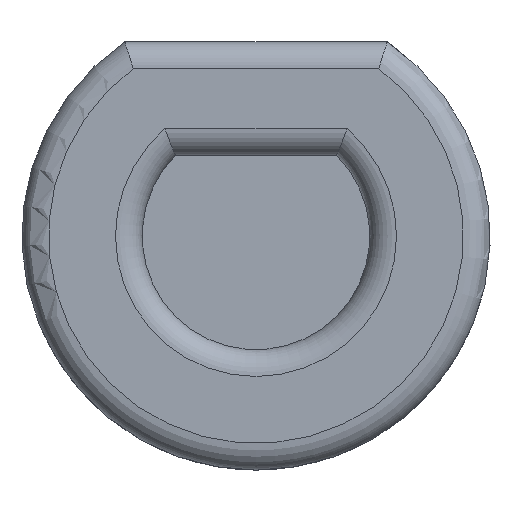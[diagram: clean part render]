
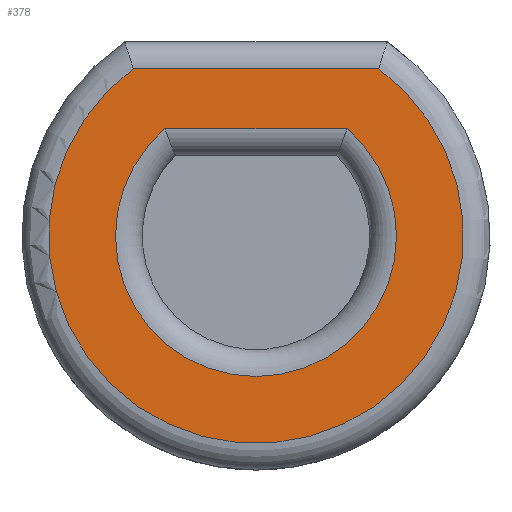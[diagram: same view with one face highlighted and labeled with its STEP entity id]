
A CAD part, front view. The second image highlights one B-rep face of the part: STEP entity #378.
In plain terms, the highlighted planar face has unit normal (0, -1, 0).
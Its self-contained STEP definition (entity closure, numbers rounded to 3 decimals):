
#71 = TOROIDAL_SURFACE('',#72,3.1,0.4);
#72 = AXIS2_PLACEMENT_3D('',#73,#74,#75);
#73 = CARTESIAN_POINT('',(0.,5.67,0.));
#74 = DIRECTION('',(0.,-1.,0.));
#75 = DIRECTION('',(0.56,0.,0.829));
#169 = CYLINDRICAL_SURFACE('',#170,0.4);
#170 = AXIS2_PLACEMENT_3D('',#171,#172,#173);
#171 = CARTESIAN_POINT('',(1.96,5.67,2.5));
#172 = DIRECTION('',(-1.,0.,0.));
#173 = DIRECTION('',(0.,0.,1.));
#185 = VERTEX_POINT('',#186);
#186 = CARTESIAN_POINT('',(1.833,5.27,2.5));
#236 = VERTEX_POINT('',#237);
#237 = CARTESIAN_POINT('',(-1.833,5.27,2.5));
#285 = EDGE_CURVE('',#185,#236,#286,.T.);
#286 = SURFACE_CURVE('',#287,(#292,#299),.PCURVE_S1.);
#287 = CIRCLE('',#288,3.1);
#288 = AXIS2_PLACEMENT_3D('',#289,#290,#291);
#289 = CARTESIAN_POINT('',(0.,5.27,0.));
#290 = DIRECTION('',(0.,1.,0.));
#291 = DIRECTION('',(0.56,0.,0.829));
#292 = PCURVE('',#71,#293);
#293 = DEFINITIONAL_REPRESENTATION('',(#294),#298);
#294 = LINE('',#295,#296);
#295 = CARTESIAN_POINT('',(-0.,1.571));
#296 = VECTOR('',#297,1.);
#297 = DIRECTION('',(-1.,0.));
#298 = ( GEOMETRIC_REPRESENTATION_CONTEXT(2) 
PARAMETRIC_REPRESENTATION_CONTEXT() REPRESENTATION_CONTEXT('2D SPACE',''
  ) );
#299 = PCURVE('',#300,#305);
#300 = PLANE('',#301);
#301 = AXIS2_PLACEMENT_3D('',#302,#303,#304);
#302 = CARTESIAN_POINT('',(0.,5.27,0.));
#303 = DIRECTION('',(0.,-1.,0.));
#304 = DIRECTION('',(1.,0.,0.));
#305 = DEFINITIONAL_REPRESENTATION('',(#306),#314);
#306 = ( BOUNDED_CURVE() B_SPLINE_CURVE(2,(#307,#308,#309,#310,#311,#312
,#313),.UNSPECIFIED.,.T.,.F.) B_SPLINE_CURVE_WITH_KNOTS((1,2,2,2,2,1),(
    -2.094,0.,2.094,4.189,6.283,
8.378),.UNSPECIFIED.) CURVE() GEOMETRIC_REPRESENTATION_ITEM() 
RATIONAL_B_SPLINE_CURVE((1.,0.5,1.,0.5,1.,0.5,1.)) REPRESENTATION_ITEM(
  '') );
#307 = CARTESIAN_POINT('',(1.736,2.569));
#308 = CARTESIAN_POINT('',(6.185,-0.438));
#309 = CARTESIAN_POINT('',(1.357,-2.787));
#310 = CARTESIAN_POINT('',(-3.471,-5.137));
#311 = CARTESIAN_POINT('',(-3.092,0.219));
#312 = CARTESIAN_POINT('',(-2.713,5.575));
#313 = CARTESIAN_POINT('',(1.736,2.569));
#314 = ( GEOMETRIC_REPRESENTATION_CONTEXT(2) 
PARAMETRIC_REPRESENTATION_CONTEXT() REPRESENTATION_CONTEXT('2D SPACE',''
  ) );
#356 = EDGE_CURVE('',#185,#236,#357,.T.);
#357 = SURFACE_CURVE('',#358,(#362,#369),.PCURVE_S1.);
#358 = LINE('',#359,#360);
#359 = CARTESIAN_POINT('',(1.96,5.27,2.5));
#360 = VECTOR('',#361,1.);
#361 = DIRECTION('',(-1.,0.,0.));
#362 = PCURVE('',#169,#363);
#363 = DEFINITIONAL_REPRESENTATION('',(#364),#368);
#364 = LINE('',#365,#366);
#365 = CARTESIAN_POINT('',(-1.571,0.));
#366 = VECTOR('',#367,1.);
#367 = DIRECTION('',(-0.,1.));
#368 = ( GEOMETRIC_REPRESENTATION_CONTEXT(2) 
PARAMETRIC_REPRESENTATION_CONTEXT() REPRESENTATION_CONTEXT('2D SPACE',''
  ) );
#369 = PCURVE('',#300,#370);
#370 = DEFINITIONAL_REPRESENTATION('',(#371),#375);
#371 = LINE('',#372,#373);
#372 = CARTESIAN_POINT('',(1.96,2.5));
#373 = VECTOR('',#374,1.);
#374 = DIRECTION('',(-1.,0.));
#375 = ( GEOMETRIC_REPRESENTATION_CONTEXT(2) 
PARAMETRIC_REPRESENTATION_CONTEXT() REPRESENTATION_CONTEXT('2D SPACE',''
  ) );
#378 = ADVANCED_FACE('',(#379,#383),#300,.T.);
#379 = FACE_BOUND('',#380,.T.);
#380 = EDGE_LOOP('',(#381,#382));
#381 = ORIENTED_EDGE('',*,*,#285,.F.);
#382 = ORIENTED_EDGE('',*,*,#356,.T.);
#383 = FACE_BOUND('',#384,.T.);
#384 = EDGE_LOOP('',(#385,#415));
#385 = ORIENTED_EDGE('',*,*,#386,.F.);
#386 = EDGE_CURVE('',#387,#389,#391,.T.);
#387 = VERTEX_POINT('',#388);
#388 = CARTESIAN_POINT('',(1.36,5.27,1.6));
#389 = VERTEX_POINT('',#390);
#390 = CARTESIAN_POINT('',(-1.36,5.27,1.6));
#391 = SURFACE_CURVE('',#392,(#396,#403),.PCURVE_S1.);
#392 = LINE('',#393,#394);
#393 = CARTESIAN_POINT('',(1.204,5.27,1.6));
#394 = VECTOR('',#395,1.);
#395 = DIRECTION('',(-1.,0.,0.));
#396 = PCURVE('',#300,#397);
#397 = DEFINITIONAL_REPRESENTATION('',(#398),#402);
#398 = LINE('',#399,#400);
#399 = CARTESIAN_POINT('',(1.204,1.6));
#400 = VECTOR('',#401,1.);
#401 = DIRECTION('',(-1.,0.));
#402 = ( GEOMETRIC_REPRESENTATION_CONTEXT(2) 
PARAMETRIC_REPRESENTATION_CONTEXT() REPRESENTATION_CONTEXT('2D SPACE',''
  ) );
#403 = PCURVE('',#404,#409);
#404 = CYLINDRICAL_SURFACE('',#405,0.4);
#405 = AXIS2_PLACEMENT_3D('',#406,#407,#408);
#406 = CARTESIAN_POINT('',(1.204,5.67,1.6));
#407 = DIRECTION('',(-1.,0.,0.));
#408 = DIRECTION('',(0.,-1.,0.));
#409 = DEFINITIONAL_REPRESENTATION('',(#410),#414);
#410 = LINE('',#411,#412);
#411 = CARTESIAN_POINT('',(-0.,0.));
#412 = VECTOR('',#413,1.);
#413 = DIRECTION('',(-0.,1.));
#414 = ( GEOMETRIC_REPRESENTATION_CONTEXT(2) 
PARAMETRIC_REPRESENTATION_CONTEXT() REPRESENTATION_CONTEXT('2D SPACE',''
  ) );
#415 = ORIENTED_EDGE('',*,*,#416,.T.);
#416 = EDGE_CURVE('',#387,#389,#417,.T.);
#417 = SURFACE_CURVE('',#418,(#423,#434),.PCURVE_S1.);
#418 = CIRCLE('',#419,2.1);
#419 = AXIS2_PLACEMENT_3D('',#420,#421,#422);
#420 = CARTESIAN_POINT('',(0.,5.27,0.));
#421 = DIRECTION('',(0.,1.,0.));
#422 = DIRECTION('',(0.708,0.,0.706));
#423 = PCURVE('',#300,#424);
#424 = DEFINITIONAL_REPRESENTATION('',(#425),#433);
#425 = ( BOUNDED_CURVE() B_SPLINE_CURVE(2,(#426,#427,#428,#429,#430,#431
,#432),.UNSPECIFIED.,.T.,.F.) B_SPLINE_CURVE_WITH_KNOTS((1,2,2,2,2,1),(
    -2.094,0.,2.094,4.189,6.283,
8.378),.UNSPECIFIED.) CURVE() GEOMETRIC_REPRESENTATION_ITEM() 
RATIONAL_B_SPLINE_CURVE((1.,0.5,1.,0.5,1.,0.5,1.)) REPRESENTATION_ITEM(
  '') );
#426 = CARTESIAN_POINT('',(1.487,1.482));
#427 = CARTESIAN_POINT('',(4.055,-1.094));
#428 = CARTESIAN_POINT('',(0.54,-2.029));
#429 = CARTESIAN_POINT('',(-2.975,-2.965));
#430 = CARTESIAN_POINT('',(-2.028,0.547));
#431 = CARTESIAN_POINT('',(-1.08,4.059));
#432 = CARTESIAN_POINT('',(1.487,1.482));
#433 = ( GEOMETRIC_REPRESENTATION_CONTEXT(2) 
PARAMETRIC_REPRESENTATION_CONTEXT() REPRESENTATION_CONTEXT('2D SPACE',''
  ) );
#434 = PCURVE('',#435,#440);
#435 = TOROIDAL_SURFACE('',#436,2.1,0.4);
#436 = AXIS2_PLACEMENT_3D('',#437,#438,#439);
#437 = CARTESIAN_POINT('',(0.,5.67,0.));
#438 = DIRECTION('',(0.,-1.,0.));
#439 = DIRECTION('',(0.708,0.,0.706));
#440 = DEFINITIONAL_REPRESENTATION('',(#441),#445);
#441 = LINE('',#442,#443);
#442 = CARTESIAN_POINT('',(-0.,1.571));
#443 = VECTOR('',#444,1.);
#444 = DIRECTION('',(-1.,0.));
#445 = ( GEOMETRIC_REPRESENTATION_CONTEXT(2) 
PARAMETRIC_REPRESENTATION_CONTEXT() REPRESENTATION_CONTEXT('2D SPACE',''
  ) );
